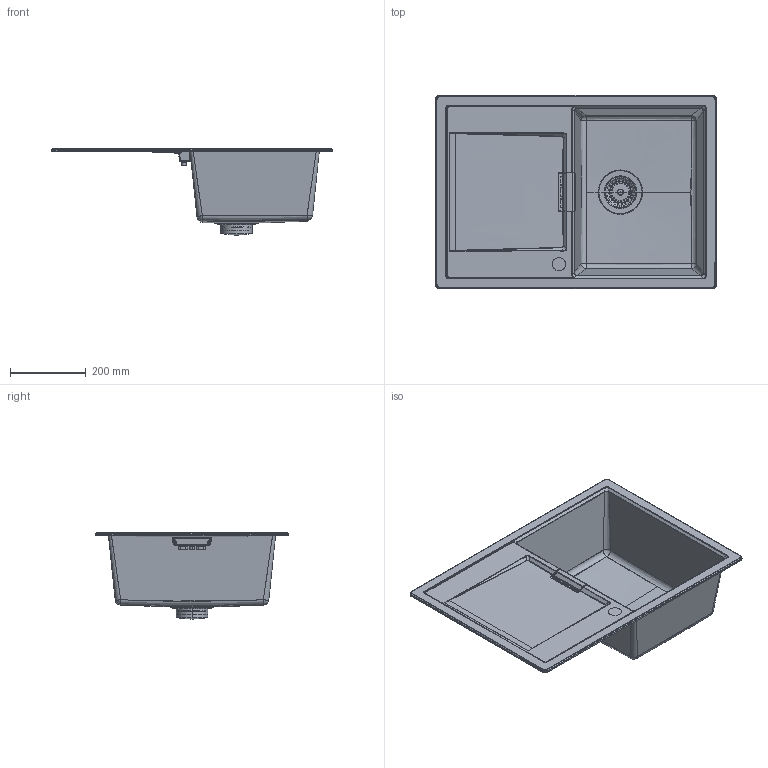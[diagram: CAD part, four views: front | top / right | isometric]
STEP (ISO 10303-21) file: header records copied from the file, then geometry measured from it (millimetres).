
FILE_DESCRIPTION(/* description */ (''),/* implementation_level */ '2;1');
FILE_NAME(/* name */ 'MOND100S',/* time_stamp */ '2014-11-04T10:14:09+01:00',/* author */ (''),/* organization */ (''),/* preprocessor_version */ 'ST-DEVELOPER v15',/* originating_system */ '',/* authorisation */ '');
FILE_SCHEMA (('AUTOMOTIVE_DESIGN'));
Length unit declared in the file: millimetre
Products named in the file (1): Document
Bounding box: 740 x 510 x 227.64 mm (x, y, z)
Volume: 31105.3 mm3; surface area: 708982.3 mm2
Topology: 3 solids, 325 shells, 503 faces, 1554 edges, 1320 vertices
Faces by surface type: bspline 451, plane 52
Entity records: 72207 total; most frequent: CARTESIAN_POINT 62961, ORIENTED_EDGE 2127, EDGE_CURVE 1531, B_SPLINE_CURVE_WITH_KNOTS 1408, VERTEX_POINT 1318, EDGE_LOOP 592, ADVANCED_FACE 501, FACE_OUTER_BOUND 501
